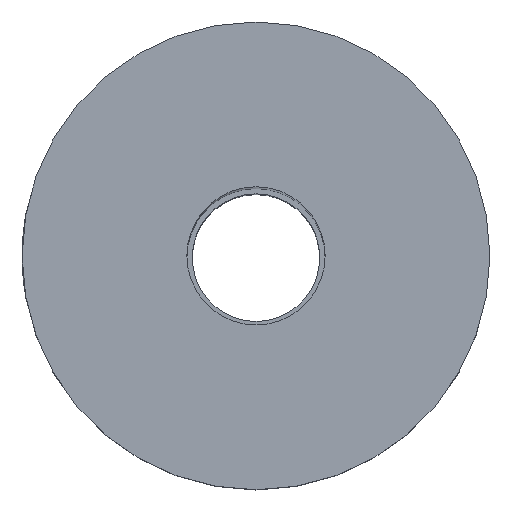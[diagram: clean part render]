
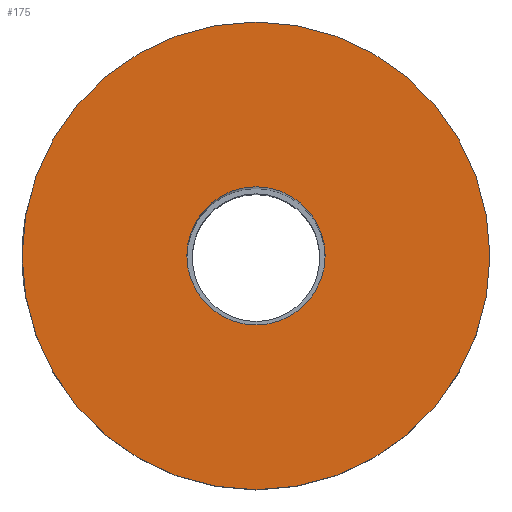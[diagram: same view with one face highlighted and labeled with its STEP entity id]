
A CAD part, top view. The second image highlights one B-rep face of the part: STEP entity #175.
In plain terms, the highlighted planar face has unit normal (0, 0, 1).
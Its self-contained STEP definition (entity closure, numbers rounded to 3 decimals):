
#5 = EDGE_CURVE ( 'NONE', #452, #580, #557, .T. ) ;
#13 = AXIS2_PLACEMENT_3D ( 'NONE', #531, #519, #579 ) ;
#18 = CARTESIAN_POINT ( 'NONE',  ( 11., 0., 0. ) ) ;
#19 = EDGE_LOOP ( 'NONE', ( #634, #182 ) ) ;
#29 = AXIS2_PLACEMENT_3D ( 'NONE', #653, #214, #207 ) ;
#32 = VERTEX_POINT ( 'NONE', #423 ) ;
#125 = CARTESIAN_POINT ( 'NONE',  ( 0., 0., 0. ) ) ;
#132 = EDGE_CURVE ( 'NONE', #32, #292, #250, .T. ) ;
#156 = AXIS2_PLACEMENT_3D ( 'NONE', #383, #390, #415 ) ;
#175 = ADVANCED_FACE ( 'NONE', ( #551, #426 ), #566, .F. ) ;
#182 = ORIENTED_EDGE ( 'NONE', *, *, #132, .T. ) ;
#207 = DIRECTION ( 'NONE',  ( 1., 0., 0. ) ) ;
#211 = DIRECTION ( 'NONE',  ( 0., 0., 1. ) ) ;
#214 = DIRECTION ( 'NONE',  ( 0., 0., 1. ) ) ;
#250 = CIRCLE ( 'NONE', #399, 11. ) ;
#258 = CARTESIAN_POINT ( 'NONE',  ( 3.25, 0., 0. ) ) ;
#284 = EDGE_CURVE ( 'NONE', #580, #452, #508, .T. ) ;
#292 = VERTEX_POINT ( 'NONE', #18 ) ;
#383 = CARTESIAN_POINT ( 'NONE',  ( 0., 0., 0. ) ) ;
#390 = DIRECTION ( 'NONE',  ( 0., 0., 1. ) ) ;
#399 = AXIS2_PLACEMENT_3D ( 'NONE', #125, #211, #447 ) ;
#415 = DIRECTION ( 'NONE',  ( 1., 0., 0. ) ) ;
#423 = CARTESIAN_POINT ( 'NONE',  ( -11., 0., 0. ) ) ;
#426 = FACE_OUTER_BOUND ( 'NONE', #19, .T. ) ;
#437 = EDGE_LOOP ( 'NONE', ( #466, #525 ) ) ;
#447 = DIRECTION ( 'NONE',  ( 1., 0., 0. ) ) ;
#448 = EDGE_CURVE ( 'NONE', #292, #32, #610, .T. ) ;
#452 = VERTEX_POINT ( 'NONE', #460 ) ;
#460 = CARTESIAN_POINT ( 'NONE',  ( -3.25, 0., 0. ) ) ;
#466 = ORIENTED_EDGE ( 'NONE', *, *, #284, .F. ) ;
#498 = DIRECTION ( 'NONE',  ( 0., 0., 1. ) ) ;
#501 = DIRECTION ( 'NONE',  ( 1., 0., 0. ) ) ;
#508 = CIRCLE ( 'NONE', #29, 3.25 ) ;
#519 = DIRECTION ( 'NONE',  ( 0., 0., -1. ) ) ;
#525 = ORIENTED_EDGE ( 'NONE', *, *, #5, .F. ) ;
#531 = CARTESIAN_POINT ( 'NONE',  ( 0., 3.25, 0. ) ) ;
#551 = FACE_BOUND ( 'NONE', #437, .T. ) ;
#557 = CIRCLE ( 'NONE', #156, 3.25 ) ;
#566 = PLANE ( 'NONE',  #13 ) ;
#568 = AXIS2_PLACEMENT_3D ( 'NONE', #611, #498, #501 ) ;
#579 = DIRECTION ( 'NONE',  ( -1., 0., 0. ) ) ;
#580 = VERTEX_POINT ( 'NONE', #258 ) ;
#610 = CIRCLE ( 'NONE', #568, 11. ) ;
#611 = CARTESIAN_POINT ( 'NONE',  ( 0., 0., 0. ) ) ;
#634 = ORIENTED_EDGE ( 'NONE', *, *, #448, .T. ) ;
#653 = CARTESIAN_POINT ( 'NONE',  ( 0., 0., 0. ) ) ;
